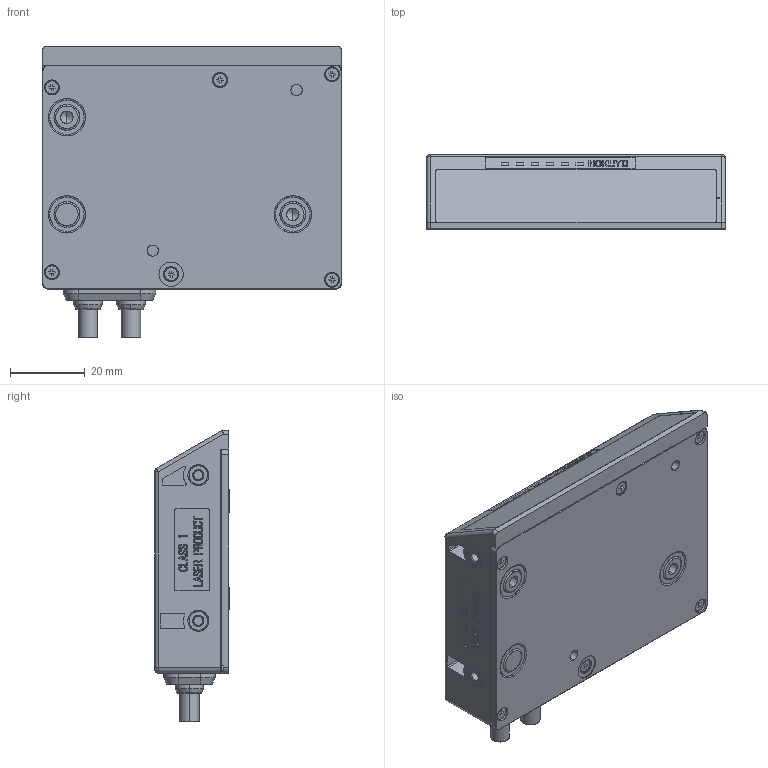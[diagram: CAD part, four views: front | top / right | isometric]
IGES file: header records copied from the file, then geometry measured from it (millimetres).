
Start section: SolidWorks IGES file using analytic representation for surfaces
Global section: file name: C:\Users\hokuyo\Desktop\SWP-10090.IGS; native system: SolidWorks 2022; preprocessor: SolidWorks 2022; author: hokuyo; date: 251017.103950; units: millimetre
Bounding box: 80 x 20 x 78 mm (x, y, z)
Surface area: 16855.8 mm2 (no closed solid volume)
Topology: 0 solids, 0 shells, 796 faces, 9380 edges, 9374 vertices
Faces by surface type: bspline 612, revolution 184
